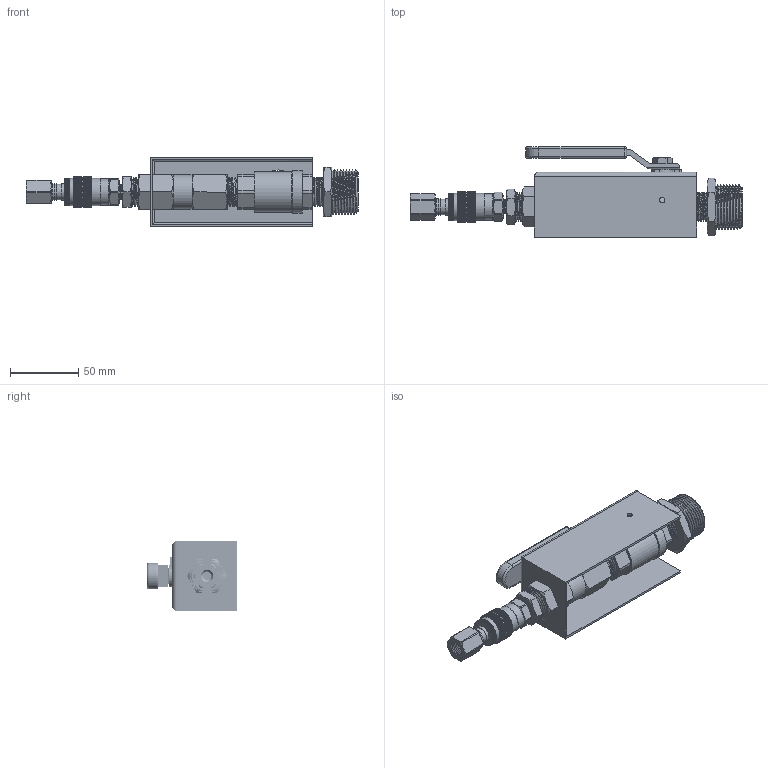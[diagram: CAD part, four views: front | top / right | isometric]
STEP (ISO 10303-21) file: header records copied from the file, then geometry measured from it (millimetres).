
FILE_DESCRIPTION(/* description */ (''),/* implementation_level */ '2;1');
FILE_NAME(/* name */ 'C:\Users\myoung\Box\ECS CAD Library\ECS Products\PAV-WN Nitrogen Inerting Wet Vent\Export\PNIP-1.stp',/* time_stamp */ '2020-05-13T15:37:16-05:00',/* author */ ('myoung'),/* organization */ (''),/* preprocessor_version */ 'ST-DEVELOPER v18',/* originating_system */ 'Autodesk Inventor 2020',/* authorisation */ '');
FILE_SCHEMA (('AUTOMOTIVE_DESIGN { 1 0 10303 214 3 1 1 }'));
Products named in the file (1): PNIP-1_Shrinkwrap_1
Bounding box: 242.86 x 66.09 x 50.8 mm (x, y, z)
Volume: 133407.1 mm3; surface area: 86988.4 mm2
Topology: 2 solids, 2 shells, 6294 faces, 14896 edges, 8785 vertices
Faces by surface type: plane 5171, cylinder 761, cone 313, bspline 41, torus 4, sphere 4
Full cylindrical faces by diameter (mm): 3.962 x2, 3.969 x1, 6.833 x1, 7.057 x10, 7.785 x9, 7.836 x2, 7.938 x1, 9.93 x1, 10.287 x6, 11.071 x1, 11.424 x1, 11.932 x3, 13.868 x2, 14.986 x1, 15.621 x1, 15.799 x2, 17.894 x1, 19.352 x1, 19.606 x1, 19.86 x3, 21.13 x1, 22.4 x4, 25.4 x1, 29.74 x1, 31.242 x1
Entity records: 224320 total; most frequent: CARTESIAN_POINT 69657, DIRECTION 33945, ORIENTED_EDGE 29784, EDGE_CURVE 14892, AXIS2_PLACEMENT_3D 13389, VERTEX_POINT 8785, LINE 7167, VECTOR 7167
